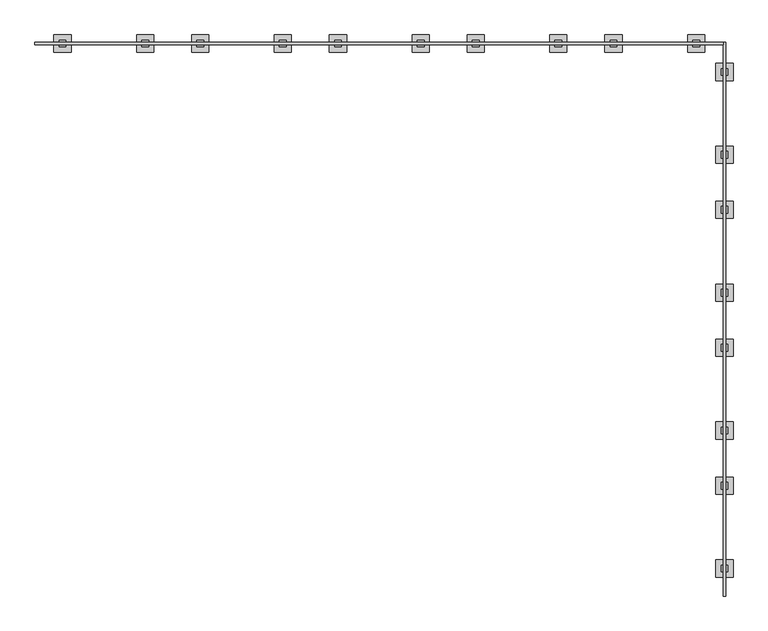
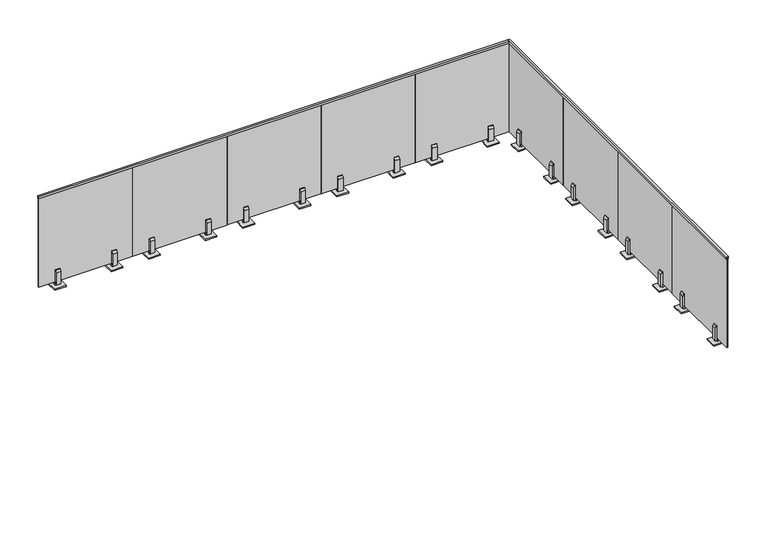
"""IFC4 building model written with IfcOpenShell, lengths in millimetres: railing geometry, VIVA-VISIO-Glass-Concrete Surface Mount-Straight."""

from ifc_helpers import new_model, si_unit, frame, origin, origin_with_axes, place, context, project, spatial, polyline, outline, extrude, source, transform, mapped, element, save


def railing_c612db08(model_context):
    return source(origin(), model_context, "Body", "SweptSolid", [
        extrude(outline(polyline([(-3377.5042168, 1092.2), (-3377.5042168, 1066.8), (-3382.0186699, 1066.8), (-3382.0186699, 1088.39), (-3394.7186699, 1088.39), (-3394.7186699, 1066.8), (-3399.233123, 1066.8), (-3399.233123, 1092.2), (-3377.5042168, 1092.2)])), frame((25788.5459111, 0.0, 0.0), z_axis=(1.0, 0.0, 0.0), x_axis=(0.0, 1.0, 0.0)), (0.0, 0.0, 1.0), 5100.8855469),
        extrude(outline(polyline([(1092.2, 30911.1603642), (1092.2, 30889.431458), (1066.8, 30889.431458), (1066.8, 30893.9459111), (1088.39, 30893.9459111), (1088.39, 30906.6459111), (1066.8, 30906.6459111), (1066.8, 30911.1603642), (1092.2, 30911.1603642)])), frame((0.0, -7484.1186699, 0.0), z_axis=(0.0, 1.0, 0.0), x_axis=(0.0, 0.0, 1.0)), (0.0, 0.0, 1.0), 4106.6144531),
        extrude(outline(polyline([(30963.7959111, -7343.1486699), (30836.7959111, -7343.1486699), (30836.7959111, -7216.1486699), (30963.7959111, -7216.1486699), (30963.7959111, -7343.1486699)])), origin_with_axes(), (0.0, 0.0, 1.0), 12.7),
        extrude(outline(polyline([(30906.6459111, -7254.2486699), (30906.6459111, -7305.0486699), (30893.9459111, -7305.0486699), (30893.9459111, -7254.2486699), (30906.6459111, -7254.2486699)])), origin_with_axes(), (0.0, 0.0, 1.0), 50.8),
        extrude(outline(polyline([(23.8125, 30925.6959111), (163.5125, 30925.6959111), (190.5, 30914.5834111), (190.5, 30906.6459111), (23.8125, 30906.6459111), (23.8125, 30925.6959111)])), frame((0.0, -7305.0486699, 0.0), z_axis=(0.0, 1.0, 0.0), x_axis=(0.0, 0.0, 1.0)), (0.0, 0.0, 1.0), 50.8),
        extrude(outline(polyline([(23.8125, 30874.8959111), (23.8125, 30893.9459111), (190.5, 30893.9459111), (190.5, 30886.0084111), (163.5125, 30874.8959111), (23.8125, 30874.8959111)])), frame((0.0, -7305.0486699, 0.0), z_axis=(0.0, 1.0, 0.0), x_axis=(0.0, 0.0, 1.0)), (0.0, 0.0, 1.0), 50.8),
        extrude(outline(polyline([(30906.6459111, -6465.3267165), (30906.6459111, -7481.3267165), (30893.9459111, -7481.3267165), (30893.9459111, -6465.3267165), (30906.6459111, -6465.3267165)])), frame((0.0, 0.0, 50.8), z_axis=(0.0, 0.0, 1.0), x_axis=(1.0, 0.0, 0.0)), (0.0, 0.0, 1.0), 1036.0025),
        extrude(outline(polyline([(30963.7959111, -6729.7386699), (30836.7959111, -6729.7386699), (30836.7959111, -6602.7386699), (30963.7959111, -6602.7386699), (30963.7959111, -6729.7386699)])), origin_with_axes(), (0.0, 0.0, 1.0), 12.7),
        extrude(outline(polyline([(30906.6459111, -6640.8386699), (30906.6459111, -6691.6386699), (30893.9459111, -6691.6386699), (30893.9459111, -6640.8386699), (30906.6459111, -6640.8386699)])), origin_with_axes(), (0.0, 0.0, 1.0), 50.8),
        extrude(outline(polyline([(23.8125, 30925.6959111), (163.5125, 30925.6959111), (190.5, 30914.5834111), (190.5, 30906.6459111), (23.8125, 30906.6459111), (23.8125, 30925.6959111)])), frame((0.0, -6691.6386699, 0.0), z_axis=(0.0, 1.0, 0.0), x_axis=(0.0, 0.0, 1.0)), (0.0, 0.0, 1.0), 50.8),
        extrude(outline(polyline([(23.8125, 30874.8959111), (23.8125, 30893.9459111), (190.5, 30893.9459111), (190.5, 30886.0084111), (163.5125, 30874.8959111), (23.8125, 30874.8959111)])), frame((0.0, -6691.6386699, 0.0), z_axis=(0.0, 1.0, 0.0), x_axis=(0.0, 0.0, 1.0)), (0.0, 0.0, 1.0), 50.8),
        extrude(outline(polyline([(30963.7959111, -6320.7986699), (30836.7959111, -6320.7986699), (30836.7959111, -6193.7986699), (30963.7959111, -6193.7986699), (30963.7959111, -6320.7986699)])), origin_with_axes(), (0.0, 0.0, 1.0), 12.7),
        extrude(outline(polyline([(30906.6459111, -6231.8986699), (30906.6459111, -6282.6986699), (30893.9459111, -6282.6986699), (30893.9459111, -6231.8986699), (30906.6459111, -6231.8986699)])), origin_with_axes(), (0.0, 0.0, 1.0), 50.8),
        extrude(outline(polyline([(23.8125, 30925.6959111), (163.5125, 30925.6959111), (190.5, 30914.5834111), (190.5, 30906.6459111), (23.8125, 30906.6459111), (23.8125, 30925.6959111)])), frame((0.0, -6282.6986699, 0.0), z_axis=(0.0, 1.0, 0.0), x_axis=(0.0, 0.0, 1.0)), (0.0, 0.0, 1.0), 50.8),
        extrude(outline(polyline([(23.8125, 30874.8959111), (23.8125, 30893.9459111), (190.5, 30893.9459111), (190.5, 30886.0084111), (163.5125, 30874.8959111), (23.8125, 30874.8959111)])), frame((0.0, -6282.6986699, 0.0), z_axis=(0.0, 1.0, 0.0), x_axis=(0.0, 0.0, 1.0)), (0.0, 0.0, 1.0), 50.8),
        extrude(outline(polyline([(30906.6459111, -5442.9767165), (30906.6459111, -6458.9767165), (30893.9459111, -6458.9767165), (30893.9459111, -5442.9767165), (30906.6459111, -5442.9767165)])), frame((0.0, 0.0, 50.8), z_axis=(0.0, 0.0, 1.0), x_axis=(1.0, 0.0, 0.0)), (0.0, 0.0, 1.0), 1036.0025),
        extrude(outline(polyline([(30963.7959111, -5707.3886699), (30836.7959111, -5707.3886699), (30836.7959111, -5580.3886699), (30963.7959111, -5580.3886699), (30963.7959111, -5707.3886699)])), origin_with_axes(), (0.0, 0.0, 1.0), 12.7),
        extrude(outline(polyline([(30906.6459111, -5618.4886699), (30906.6459111, -5669.2886699), (30893.9459111, -5669.2886699), (30893.9459111, -5618.4886699), (30906.6459111, -5618.4886699)])), origin_with_axes(), (0.0, 0.0, 1.0), 50.8),
        extrude(outline(polyline([(23.8125, 30925.6959111), (163.5125, 30925.6959111), (190.5, 30914.5834111), (190.5, 30906.6459111), (23.8125, 30906.6459111), (23.8125, 30925.6959111)])), frame((0.0, -5669.2886699, 0.0), z_axis=(0.0, 1.0, 0.0), x_axis=(0.0, 0.0, 1.0)), (0.0, 0.0, 1.0), 50.8),
        extrude(outline(polyline([(23.8125, 30874.8959111), (23.8125, 30893.9459111), (190.5, 30893.9459111), (190.5, 30886.0084111), (163.5125, 30874.8959111), (23.8125, 30874.8959111)])), frame((0.0, -5669.2886699, 0.0), z_axis=(0.0, 1.0, 0.0), x_axis=(0.0, 0.0, 1.0)), (0.0, 0.0, 1.0), 50.8),
        extrude(outline(polyline([(30963.7959111, -5298.4486699), (30836.7959111, -5298.4486699), (30836.7959111, -5171.4486699), (30963.7959111, -5171.4486699), (30963.7959111, -5298.4486699)])), origin_with_axes(), (0.0, 0.0, 1.0), 12.7),
        extrude(outline(polyline([(30906.6459111, -5209.5486699), (30906.6459111, -5260.3486699), (30893.9459111, -5260.3486699), (30893.9459111, -5209.5486699), (30906.6459111, -5209.5486699)])), origin_with_axes(), (0.0, 0.0, 1.0), 50.8),
        extrude(outline(polyline([(23.8125, 30925.6959111), (163.5125, 30925.6959111), (190.5, 30914.5834111), (190.5, 30906.6459111), (23.8125, 30906.6459111), (23.8125, 30925.6959111)])), frame((0.0, -5260.3486699, 0.0), z_axis=(0.0, 1.0, 0.0), x_axis=(0.0, 0.0, 1.0)), (0.0, 0.0, 1.0), 50.8),
        extrude(outline(polyline([(23.8125, 30874.8959111), (23.8125, 30893.9459111), (190.5, 30893.9459111), (190.5, 30886.0084111), (163.5125, 30874.8959111), (23.8125, 30874.8959111)])), frame((0.0, -5260.3486699, 0.0), z_axis=(0.0, 1.0, 0.0), x_axis=(0.0, 0.0, 1.0)), (0.0, 0.0, 1.0), 50.8),
        extrude(outline(polyline([(30906.6459111, -4420.6267165), (30906.6459111, -5436.6267165), (30893.9459111, -5436.6267165), (30893.9459111, -4420.6267165), (30906.6459111, -4420.6267165)])), frame((0.0, 0.0, 50.8), z_axis=(0.0, 0.0, 1.0), x_axis=(1.0, 0.0, 0.0)), (0.0, 0.0, 1.0), 1036.0025),
        extrude(outline(polyline([(30963.7959111, -4685.0386699), (30836.7959111, -4685.0386699), (30836.7959111, -4558.0386699), (30963.7959111, -4558.0386699), (30963.7959111, -4685.0386699)])), origin_with_axes(), (0.0, 0.0, 1.0), 12.7),
        extrude(outline(polyline([(30906.6459111, -4596.1386699), (30906.6459111, -4646.9386699), (30893.9459111, -4646.9386699), (30893.9459111, -4596.1386699), (30906.6459111, -4596.1386699)])), origin_with_axes(), (0.0, 0.0, 1.0), 50.8),
        extrude(outline(polyline([(23.8125, 30925.6959111), (163.5125, 30925.6959111), (190.5, 30914.5834111), (190.5, 30906.6459111), (23.8125, 30906.6459111), (23.8125, 30925.6959111)])), frame((0.0, -4646.9386699, 0.0), z_axis=(0.0, 1.0, 0.0), x_axis=(0.0, 0.0, 1.0)), (0.0, 0.0, 1.0), 50.8),
        extrude(outline(polyline([(23.8125, 30874.8959111), (23.8125, 30893.9459111), (190.5, 30893.9459111), (190.5, 30886.0084111), (163.5125, 30874.8959111), (23.8125, 30874.8959111)])), frame((0.0, -4646.9386699, 0.0), z_axis=(0.0, 1.0, 0.0), x_axis=(0.0, 0.0, 1.0)), (0.0, 0.0, 1.0), 50.8),
        extrude(outline(polyline([(30963.7959111, -4276.0986699), (30836.7959111, -4276.0986699), (30836.7959111, -4149.0986699), (30963.7959111, -4149.0986699), (30963.7959111, -4276.0986699)])), origin_with_axes(), (0.0, 0.0, 1.0), 12.7),
        extrude(outline(polyline([(30906.6459111, -4187.1986699), (30906.6459111, -4237.9986699), (30893.9459111, -4237.9986699), (30893.9459111, -4187.1986699), (30906.6459111, -4187.1986699)])), origin_with_axes(), (0.0, 0.0, 1.0), 50.8),
        extrude(outline(polyline([(23.8125, 30925.6959111), (163.5125, 30925.6959111), (190.5, 30914.5834111), (190.5, 30906.6459111), (23.8125, 30906.6459111), (23.8125, 30925.6959111)])), frame((0.0, -4237.9986699, 0.0), z_axis=(0.0, 1.0, 0.0), x_axis=(0.0, 0.0, 1.0)), (0.0, 0.0, 1.0), 50.8),
        extrude(outline(polyline([(23.8125, 30874.8959111), (23.8125, 30893.9459111), (190.5, 30893.9459111), (190.5, 30886.0084111), (163.5125, 30874.8959111), (23.8125, 30874.8959111)])), frame((0.0, -4237.9986699, 0.0), z_axis=(0.0, 1.0, 0.0), x_axis=(0.0, 0.0, 1.0)), (0.0, 0.0, 1.0), 50.8),
        extrude(outline(polyline([(30906.6459111, -3398.2767165), (30906.6459111, -4414.2767165), (30893.9459111, -4414.2767165), (30893.9459111, -3398.2767165), (30906.6459111, -3398.2767165)])), frame((0.0, 0.0, 50.8), z_axis=(0.0, 0.0, 1.0), x_axis=(1.0, 0.0, 0.0)), (0.0, 0.0, 1.0), 1036.0025),
        extrude(outline(polyline([(30963.7959111, -3662.6886699), (30836.7959111, -3662.6886699), (30836.7959111, -3535.6886699), (30963.7959111, -3535.6886699), (30963.7959111, -3662.6886699)])), origin_with_axes(), (0.0, 0.0, 1.0), 12.7),
        extrude(outline(polyline([(30906.6459111, -3573.7886699), (30906.6459111, -3624.5886699), (30893.9459111, -3624.5886699), (30893.9459111, -3573.7886699), (30906.6459111, -3573.7886699)])), origin_with_axes(), (0.0, 0.0, 1.0), 50.8),
        extrude(outline(polyline([(23.8125, 30925.6959111), (163.5125, 30925.6959111), (190.5, 30914.5834111), (190.5, 30906.6459111), (23.8125, 30906.6459111), (23.8125, 30925.6959111)])), frame((0.0, -3624.5886699, 0.0), z_axis=(0.0, 1.0, 0.0), x_axis=(0.0, 0.0, 1.0)), (0.0, 0.0, 1.0), 50.8),
        extrude(outline(polyline([(23.8125, 30874.8959111), (23.8125, 30893.9459111), (190.5, 30893.9459111), (190.5, 30886.0084111), (163.5125, 30874.8959111), (23.8125, 30874.8959111)])), frame((0.0, -3624.5886699, 0.0), z_axis=(0.0, 1.0, 0.0), x_axis=(0.0, 0.0, 1.0)), (0.0, 0.0, 1.0), 50.8),
        extrude(outline(polyline([(30753.2299111, -3324.8686699), (30753.2299111, -3451.8686699), (30626.2299111, -3451.8686699), (30626.2299111, -3324.8686699), (30753.2299111, -3324.8686699)])), origin_with_axes(), (0.0, 0.0, 1.0), 12.7),
        extrude(outline(polyline([(30664.3299111, -3382.0186699), (30715.1299111, -3382.0186699), (30715.1299111, -3394.7186699), (30664.3299111, -3394.7186699), (30664.3299111, -3382.0186699)])), origin_with_axes(), (0.0, 0.0, 1.0), 50.8),
        extrude(outline(polyline([(-3362.9686699, 23.8125), (-3382.0186699, 23.8125), (-3382.0186699, 190.5), (-3374.0811699, 190.5), (-3362.9686699, 163.5125), (-3362.9686699, 23.8125)])), frame((30664.3299111, 0.0, 0.0), z_axis=(1.0, 0.0, 0.0), x_axis=(0.0, 1.0, 0.0)), (0.0, 0.0, 1.0), 50.8),
        extrude(outline(polyline([(-3413.7686699, 23.8125), (-3413.7686699, 163.5125), (-3402.6561699, 190.5), (-3394.7186699, 190.5), (-3394.7186699, 23.8125), (-3413.7686699, 23.8125)])), frame((30664.3299111, 0.0, 0.0), z_axis=(1.0, 0.0, 0.0), x_axis=(0.0, 1.0, 0.0)), (0.0, 0.0, 1.0), 50.8),
        extrude(outline(polyline([(29875.7889577, -3382.0186699), (30891.7889577, -3382.0186699), (30891.7889577, -3394.7186699), (29875.7889577, -3394.7186699), (29875.7889577, -3382.0186699)])), frame((0.0, 0.0, 50.8), z_axis=(0.0, 0.0, 1.0), x_axis=(1.0, 0.0, 0.0)), (0.0, 0.0, 1.0), 1036.0025),
        extrude(outline(polyline([(30140.5819111, -3324.8686699), (30140.5819111, -3451.8686699), (30013.5819111, -3451.8686699), (30013.5819111, -3324.8686699), (30140.5819111, -3324.8686699)])), origin_with_axes(), (0.0, 0.0, 1.0), 12.7),
        extrude(outline(polyline([(30051.6819111, -3382.0186699), (30102.4819111, -3382.0186699), (30102.4819111, -3394.7186699), (30051.6819111, -3394.7186699), (30051.6819111, -3382.0186699)])), origin_with_axes(), (0.0, 0.0, 1.0), 50.8),
        extrude(outline(polyline([(-3362.9686699, 23.8125), (-3382.0186699, 23.8125), (-3382.0186699, 190.5), (-3374.0811699, 190.5), (-3362.9686699, 163.5125), (-3362.9686699, 23.8125)])), frame((30051.6819111, 0.0, 0.0), z_axis=(1.0, 0.0, 0.0), x_axis=(0.0, 1.0, 0.0)), (0.0, 0.0, 1.0), 50.8),
        extrude(outline(polyline([(-3413.7686699, 23.8125), (-3413.7686699, 163.5125), (-3402.6561699, 190.5), (-3394.7186699, 190.5), (-3394.7186699, 23.8125), (-3413.7686699, 23.8125)])), frame((30051.6819111, 0.0, 0.0), z_axis=(1.0, 0.0, 0.0), x_axis=(0.0, 1.0, 0.0)), (0.0, 0.0, 1.0), 50.8),
        extrude(outline(polyline([(29732.1499111, -3324.8686699), (29732.1499111, -3451.8686699), (29605.1499111, -3451.8686699), (29605.1499111, -3324.8686699), (29732.1499111, -3324.8686699)])), origin_with_axes(), (0.0, 0.0, 1.0), 12.7),
        extrude(outline(polyline([(29643.2499111, -3382.0186699), (29694.0499111, -3382.0186699), (29694.0499111, -3394.7186699), (29643.2499111, -3394.7186699), (29643.2499111, -3382.0186699)])), origin_with_axes(), (0.0, 0.0, 1.0), 50.8),
        extrude(outline(polyline([(-3362.9686699, 23.8125), (-3382.0186699, 23.8125), (-3382.0186699, 190.5), (-3374.0811699, 190.5), (-3362.9686699, 163.5125), (-3362.9686699, 23.8125)])), frame((29643.2499111, 0.0, 0.0), z_axis=(1.0, 0.0, 0.0), x_axis=(0.0, 1.0, 0.0)), (0.0, 0.0, 1.0), 50.8),
        extrude(outline(polyline([(-3413.7686699, 23.8125), (-3413.7686699, 163.5125), (-3402.6561699, 190.5), (-3394.7186699, 190.5), (-3394.7186699, 23.8125), (-3413.7686699, 23.8125)])), frame((29643.2499111, 0.0, 0.0), z_axis=(1.0, 0.0, 0.0), x_axis=(0.0, 1.0, 0.0)), (0.0, 0.0, 1.0), 50.8),
        extrude(outline(polyline([(28854.7089577, -3382.0186699), (29870.7089577, -3382.0186699), (29870.7089577, -3394.7186699), (28854.7089577, -3394.7186699), (28854.7089577, -3382.0186699)])), frame((0.0, 0.0, 50.8), z_axis=(0.0, 0.0, 1.0), x_axis=(1.0, 0.0, 0.0)), (0.0, 0.0, 1.0), 1036.0025),
        extrude(outline(polyline([(29119.5019111, -3324.8686699), (29119.5019111, -3451.8686699), (28992.5019111, -3451.8686699), (28992.5019111, -3324.8686699), (29119.5019111, -3324.8686699)])), origin_with_axes(), (0.0, 0.0, 1.0), 12.7),
        extrude(outline(polyline([(29030.6019111, -3382.0186699), (29081.4019111, -3382.0186699), (29081.4019111, -3394.7186699), (29030.6019111, -3394.7186699), (29030.6019111, -3382.0186699)])), origin_with_axes(), (0.0, 0.0, 1.0), 50.8),
        extrude(outline(polyline([(-3362.9686699, 23.8125), (-3382.0186699, 23.8125), (-3382.0186699, 190.5), (-3374.0811699, 190.5), (-3362.9686699, 163.5125), (-3362.9686699, 23.8125)])), frame((29030.6019111, 0.0, 0.0), z_axis=(1.0, 0.0, 0.0), x_axis=(0.0, 1.0, 0.0)), (0.0, 0.0, 1.0), 50.8),
        extrude(outline(polyline([(-3413.7686699, 23.8125), (-3413.7686699, 163.5125), (-3402.6561699, 190.5), (-3394.7186699, 190.5), (-3394.7186699, 23.8125), (-3413.7686699, 23.8125)])), frame((29030.6019111, 0.0, 0.0), z_axis=(1.0, 0.0, 0.0), x_axis=(0.0, 1.0, 0.0)), (0.0, 0.0, 1.0), 50.8),
        extrude(outline(polyline([(28711.0699111, -3324.8686699), (28711.0699111, -3451.8686699), (28584.0699111, -3451.8686699), (28584.0699111, -3324.8686699), (28711.0699111, -3324.8686699)])), origin_with_axes(), (0.0, 0.0, 1.0), 12.7),
        extrude(outline(polyline([(28622.1699111, -3382.0186699), (28672.9699111, -3382.0186699), (28672.9699111, -3394.7186699), (28622.1699111, -3394.7186699), (28622.1699111, -3382.0186699)])), origin_with_axes(), (0.0, 0.0, 1.0), 50.8),
        extrude(outline(polyline([(-3362.9686699, 23.8125), (-3382.0186699, 23.8125), (-3382.0186699, 190.5), (-3374.0811699, 190.5), (-3362.9686699, 163.5125), (-3362.9686699, 23.8125)])), frame((28622.1699111, 0.0, 0.0), z_axis=(1.0, 0.0, 0.0), x_axis=(0.0, 1.0, 0.0)), (0.0, 0.0, 1.0), 50.8),
        extrude(outline(polyline([(-3413.7686699, 23.8125), (-3413.7686699, 163.5125), (-3402.6561699, 190.5), (-3394.7186699, 190.5), (-3394.7186699, 23.8125), (-3413.7686699, 23.8125)])), frame((28622.1699111, 0.0, 0.0), z_axis=(1.0, 0.0, 0.0), x_axis=(0.0, 1.0, 0.0)), (0.0, 0.0, 1.0), 50.8),
        extrude(outline(polyline([(27833.6289577, -3382.0186699), (28849.6289577, -3382.0186699), (28849.6289577, -3394.7186699), (27833.6289577, -3394.7186699), (27833.6289577, -3382.0186699)])), frame((0.0, 0.0, 50.8), z_axis=(0.0, 0.0, 1.0), x_axis=(1.0, 0.0, 0.0)), (0.0, 0.0, 1.0), 1036.0025),
        extrude(outline(polyline([(28098.4219111, -3324.8686699), (28098.4219111, -3451.8686699), (27971.4219111, -3451.8686699), (27971.4219111, -3324.8686699), (28098.4219111, -3324.8686699)])), origin_with_axes(), (0.0, 0.0, 1.0), 12.7),
        extrude(outline(polyline([(28009.5219111, -3382.0186699), (28060.3219111, -3382.0186699), (28060.3219111, -3394.7186699), (28009.5219111, -3394.7186699), (28009.5219111, -3382.0186699)])), origin_with_axes(), (0.0, 0.0, 1.0), 50.8),
        extrude(outline(polyline([(-3362.9686699, 23.8125), (-3382.0186699, 23.8125), (-3382.0186699, 190.5), (-3374.0811699, 190.5), (-3362.9686699, 163.5125), (-3362.9686699, 23.8125)])), frame((28009.5219111, 0.0, 0.0), z_axis=(1.0, 0.0, 0.0), x_axis=(0.0, 1.0, 0.0)), (0.0, 0.0, 1.0), 50.8),
        extrude(outline(polyline([(-3413.7686699, 23.8125), (-3413.7686699, 163.5125), (-3402.6561699, 190.5), (-3394.7186699, 190.5), (-3394.7186699, 23.8125), (-3413.7686699, 23.8125)])), frame((28009.5219111, 0.0, 0.0), z_axis=(1.0, 0.0, 0.0), x_axis=(0.0, 1.0, 0.0)), (0.0, 0.0, 1.0), 50.8),
        extrude(outline(polyline([(27689.9899111, -3324.8686699), (27689.9899111, -3451.8686699), (27562.9899111, -3451.8686699), (27562.9899111, -3324.8686699), (27689.9899111, -3324.8686699)])), origin_with_axes(), (0.0, 0.0, 1.0), 12.7),
        extrude(outline(polyline([(27601.0899111, -3382.0186699), (27651.8899111, -3382.0186699), (27651.8899111, -3394.7186699), (27601.0899111, -3394.7186699), (27601.0899111, -3382.0186699)])), origin_with_axes(), (0.0, 0.0, 1.0), 50.8),
        extrude(outline(polyline([(-3362.9686699, 23.8125), (-3382.0186699, 23.8125), (-3382.0186699, 190.5), (-3374.0811699, 190.5), (-3362.9686699, 163.5125), (-3362.9686699, 23.8125)])), frame((27601.0899111, 0.0, 0.0), z_axis=(1.0, 0.0, 0.0), x_axis=(0.0, 1.0, 0.0)), (0.0, 0.0, 1.0), 50.8),
        extrude(outline(polyline([(-3413.7686699, 23.8125), (-3413.7686699, 163.5125), (-3402.6561699, 190.5), (-3394.7186699, 190.5), (-3394.7186699, 23.8125), (-3413.7686699, 23.8125)])), frame((27601.0899111, 0.0, 0.0), z_axis=(1.0, 0.0, 0.0), x_axis=(0.0, 1.0, 0.0)), (0.0, 0.0, 1.0), 50.8),
        extrude(outline(polyline([(26812.5489577, -3382.0186699), (27828.5489577, -3382.0186699), (27828.5489577, -3394.7186699), (26812.5489577, -3394.7186699), (26812.5489577, -3382.0186699)])), frame((0.0, 0.0, 50.8), z_axis=(0.0, 0.0, 1.0), x_axis=(1.0, 0.0, 0.0)), (0.0, 0.0, 1.0), 1036.0025),
        extrude(outline(polyline([(27077.3419111, -3324.8686699), (27077.3419111, -3451.8686699), (26950.3419111, -3451.8686699), (26950.3419111, -3324.8686699), (27077.3419111, -3324.8686699)])), origin_with_axes(), (0.0, 0.0, 1.0), 12.7),
        extrude(outline(polyline([(26988.4419111, -3382.0186699), (27039.2419111, -3382.0186699), (27039.2419111, -3394.7186699), (26988.4419111, -3394.7186699), (26988.4419111, -3382.0186699)])), origin_with_axes(), (0.0, 0.0, 1.0), 50.8),
        extrude(outline(polyline([(-3362.9686699, 23.8125), (-3382.0186699, 23.8125), (-3382.0186699, 190.5), (-3374.0811699, 190.5), (-3362.9686699, 163.5125), (-3362.9686699, 23.8125)])), frame((26988.4419111, 0.0, 0.0), z_axis=(1.0, 0.0, 0.0), x_axis=(0.0, 1.0, 0.0)), (0.0, 0.0, 1.0), 50.8),
        extrude(outline(polyline([(-3413.7686699, 23.8125), (-3413.7686699, 163.5125), (-3402.6561699, 190.5), (-3394.7186699, 190.5), (-3394.7186699, 23.8125), (-3413.7686699, 23.8125)])), frame((26988.4419111, 0.0, 0.0), z_axis=(1.0, 0.0, 0.0), x_axis=(0.0, 1.0, 0.0)), (0.0, 0.0, 1.0), 50.8),
        extrude(outline(polyline([(26668.9099111, -3324.8686699), (26668.9099111, -3451.8686699), (26541.9099111, -3451.8686699), (26541.9099111, -3324.8686699), (26668.9099111, -3324.8686699)])), origin_with_axes(), (0.0, 0.0, 1.0), 12.7),
        extrude(outline(polyline([(26580.0099111, -3382.0186699), (26630.8099111, -3382.0186699), (26630.8099111, -3394.7186699), (26580.0099111, -3394.7186699), (26580.0099111, -3382.0186699)])), origin_with_axes(), (0.0, 0.0, 1.0), 50.8),
        extrude(outline(polyline([(-3362.9686699, 23.8125), (-3382.0186699, 23.8125), (-3382.0186699, 190.5), (-3374.0811699, 190.5), (-3362.9686699, 163.5125), (-3362.9686699, 23.8125)])), frame((26580.0099111, 0.0, 0.0), z_axis=(1.0, 0.0, 0.0), x_axis=(0.0, 1.0, 0.0)), (0.0, 0.0, 1.0), 50.8),
        extrude(outline(polyline([(-3413.7686699, 23.8125), (-3413.7686699, 163.5125), (-3402.6561699, 190.5), (-3394.7186699, 190.5), (-3394.7186699, 23.8125), (-3413.7686699, 23.8125)])), frame((26580.0099111, 0.0, 0.0), z_axis=(1.0, 0.0, 0.0), x_axis=(0.0, 1.0, 0.0)), (0.0, 0.0, 1.0), 50.8),
        extrude(outline(polyline([(25791.4689577, -3382.0186699), (26807.4689577, -3382.0186699), (26807.4689577, -3394.7186699), (25791.4689577, -3394.7186699), (25791.4689577, -3382.0186699)])), frame((0.0, 0.0, 50.8), z_axis=(0.0, 0.0, 1.0), x_axis=(1.0, 0.0, 0.0)), (0.0, 0.0, 1.0), 1036.0025),
        extrude(outline(polyline([(26056.2619111, -3324.8686699), (26056.2619111, -3451.8686699), (25929.2619111, -3451.8686699), (25929.2619111, -3324.8686699), (26056.2619111, -3324.8686699)])), origin_with_axes(), (0.0, 0.0, 1.0), 12.7),
        extrude(outline(polyline([(25967.3619111, -3382.0186699), (26018.1619111, -3382.0186699), (26018.1619111, -3394.7186699), (25967.3619111, -3394.7186699), (25967.3619111, -3382.0186699)])), origin_with_axes(), (0.0, 0.0, 1.0), 50.8),
        extrude(outline(polyline([(-3362.9686699, 23.8125), (-3382.0186699, 23.8125), (-3382.0186699, 190.5), (-3374.0811699, 190.5), (-3362.9686699, 163.5125), (-3362.9686699, 23.8125)])), frame((25967.3619111, 0.0, 0.0), z_axis=(1.0, 0.0, 0.0), x_axis=(0.0, 1.0, 0.0)), (0.0, 0.0, 1.0), 50.8),
        extrude(outline(polyline([(-3413.7686699, 23.8125), (-3413.7686699, 163.5125), (-3402.6561699, 190.5), (-3394.7186699, 190.5), (-3394.7186699, 23.8125), (-3413.7686699, 23.8125)])), frame((25967.3619111, 0.0, 0.0), z_axis=(1.0, 0.0, 0.0), x_axis=(0.0, 1.0, 0.0)), (0.0, 0.0, 1.0), 50.8),
    ])


if __name__ == "__main__":
    model = new_model("IFC4")
    model_context = context("Model", 3, world=origin())
    ifc_project = project(units=[si_unit("LENGTHUNIT", "METRE", prefix="MILLI")], contexts=[model_context])
    site = spatial("IfcSite", under=ifc_project)
    building = spatial("IfcBuilding", under=site)
    placement = place(None, origin())
    railing_shape = railing_c612db08(model_context)
    element("IfcRailing", 1, ObjectType="VIVA-VISIO-Glass-Concrete Surface Mount-Straight", at=placement, inside=building, context=model_context, shape_type="MappedRepresentation", body=[
        mapped(railing_shape, transform((0.0, 0.0, 0.0), x_axis=(1.0, 0.0, 0.0), y_axis=(0.0, 1.0, 0.0), z_axis=(0.0, 0.0, 1.0))),
    ])
    save(model, "model.ifc")
